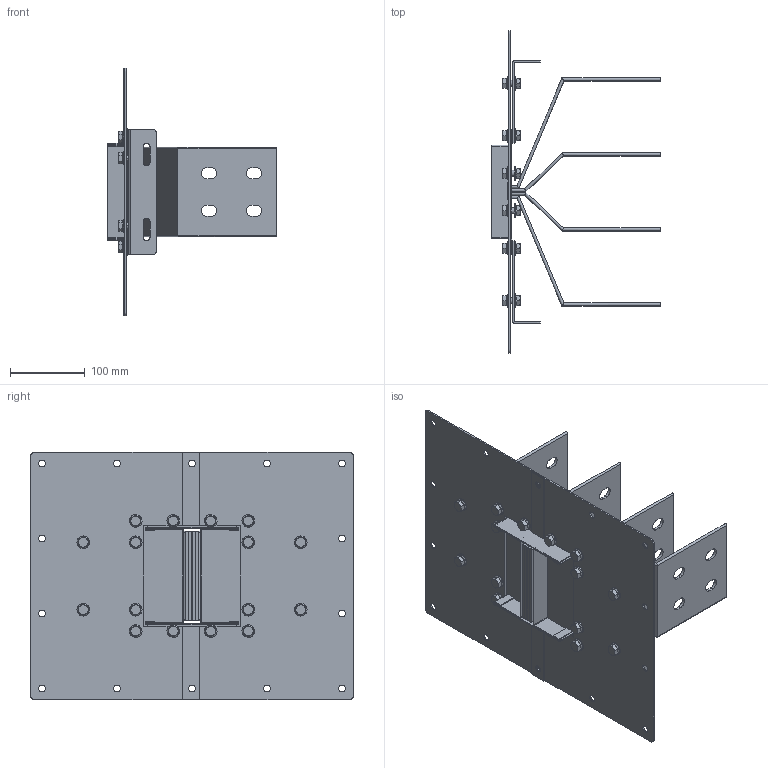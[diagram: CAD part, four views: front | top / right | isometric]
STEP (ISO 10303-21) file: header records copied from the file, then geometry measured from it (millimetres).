
FILE_DESCRIPTION(('CATIA V5 STEP','CAx-IF Rec.Pracs.--- Model Styling and Organization---1.5--- 2016-08-15','CAx-IF Rec.Pracs.---Supplemental Geometry---1.0---2011-11-01','CAx-IF Rec.Pracs.--- Composite Materials ---1.1---2010-07-15'),'2;1');
FILE_NAME('K:\COSCN 2011\32372311_RiduzioneSezioniBarre\03_Studio\__Modelli semplificati\XCP_UB semplificati per studi\XCP-HP_UB_4C_Pe_STD_Assieme\Cu\XCP-HP_UB_4C_Pe_S_Assieme - 1250A Cu\XCP-HP_UB_4C_Pe_S_Assieme - 1250A Cu.stp','2025-05-12T11:42:58+00:00',('Utente Bticino'),('Bticino S.p.A.'),'CATIA Version 5-6 Release 2020 SP5','CATIA V5 STEP AP214 v2','none');
FILE_SCHEMA(('AUTOMOTIVE_DESIGN { 1 0 10303 214 1 1 1 1 }'));
Length unit declared in the file: millimetre
Products named in the file (7): XCP-HP_UB_4C_Pe_S_Assieme - 1250A Cu; XCP-HP_UB_4C_Pe_S_PaccoBarre_1250A Cu; XCP-HP_UB_4C_Pe_S_Lamiere_1250A Cu; Viteria UB H130; Ass Vite+dado M8; Steel hex flanged SCREW M12x16; Steel hex flanged NUT M8
Assembly tree (21 placements, depth 4):
  XCP-HP_UB_4C_Pe_S_Assieme - 1250A Cu
    XCP-HP_UB_4C_Pe_S_PaccoBarre_1250A Cu
    XCP-HP_UB_4C_Pe_S_Lamiere_1250A Cu
    Viteria UB H130
      Ass Vite+dado M8  x16
        Steel hex flanged SCREW M12x16
        Steel hex flanged NUT M8
Bounding box: 225 x 430 x 330 mm (x, y, z)
Volume: 971786.5 mm3; surface area: 755191.6 mm2
Topology: 44 solids, 44 shells, 1148 faces, 2820 edges, 1792 vertices
Faces by surface type: plane 480, cylinder 380, cone 128, bspline 128, torus 32
Entity records: 14919 total; most frequent: CARTESIAN_POINT 3460, ORIENTED_EDGE 2460, DIRECTION 1928, EDGE_CURVE 1230, AXIS2_PLACEMENT_3D 818, VERTEX_POINT 802, VECTOR 728, LINE 728
